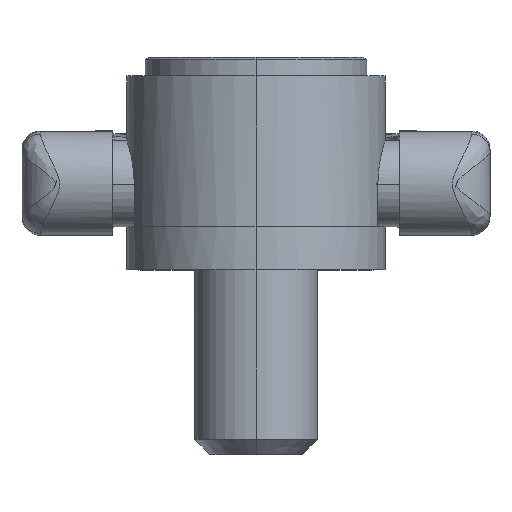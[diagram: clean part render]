
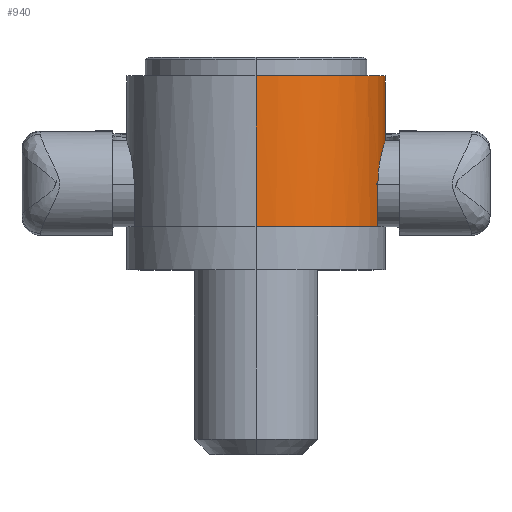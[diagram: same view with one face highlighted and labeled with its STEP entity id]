
A CAD part, top view. The second image highlights one B-rep face of the part: STEP entity #940.
In plain terms, the highlighted cylindrical face has radius 21 mm (diameter 42 mm), a partial arc.
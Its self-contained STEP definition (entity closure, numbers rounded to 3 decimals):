
#853 = ORIENTED_EDGE ( 'NONE', *, *, #854, .F. ) ;
#854 = EDGE_CURVE ( 'NONE', #855, #884, #5337, .T. ) ;
#855 = VERTEX_POINT ( 'NONE', #5332 ) ;
#856 = ORIENTED_EDGE ( 'NONE', *, *, #857, .T. ) ;
#857 = EDGE_CURVE ( 'NONE', #855, #858, #5305, .T. ) ;
#858 = VERTEX_POINT ( 'NONE', #5301 ) ;
#879 = EDGE_CURVE ( 'NONE', #880, #881, #5352, .T. ) ;
#880 = VERTEX_POINT ( 'NONE', #5347 ) ;
#881 = VERTEX_POINT ( 'NONE', #5346 ) ;
#882 = ORIENTED_EDGE ( 'NONE', *, *, #883, .T. ) ;
#883 = EDGE_CURVE ( 'NONE', #880, #884, #5345, .T. ) ;
#884 = VERTEX_POINT ( 'NONE', #5341 ) ;
#940 = ADVANCED_FACE ( 'NONE', ( #5534 ), #5532, .T. ) ;
#941 = EDGE_LOOP ( 'NONE', ( #942, #882, #853, #856, #1038, #1041, #950, #953 ) ) ;
#942 = ORIENTED_EDGE ( 'NONE', *, *, #879, .F. ) ;
#949 = EDGE_CURVE ( 'NONE', #1040, #1042, #5515, .T. ) ;
#950 = ORIENTED_EDGE ( 'NONE', *, *, #951, .F. ) ;
#951 = EDGE_CURVE ( 'NONE', #952, #1042, #5499, .T. ) ;
#952 = VERTEX_POINT ( 'NONE', #5494 ) ;
#953 = ORIENTED_EDGE ( 'NONE', *, *, #954, .F. ) ;
#954 = EDGE_CURVE ( 'NONE', #881, #952, #5493, .T. ) ;
#1038 = ORIENTED_EDGE ( 'NONE', *, *, #1039, .T. ) ;
#1039 = EDGE_CURVE ( 'NONE', #858, #1040, #5821, .T. ) ;
#1040 = VERTEX_POINT ( 'NONE', #5957 ) ;
#1041 = ORIENTED_EDGE ( 'NONE', *, *, #949, .T. ) ;
#1042 = VERTEX_POINT ( 'NONE', #5889 ) ;
#5301 = CARTESIAN_POINT ( 'NONE',  ( 19.799, 14., 7. ) ) ;
#5302 = DIRECTION ( 'NONE',  ( 0., 1., 0. ) ) ;
#5303 = VECTOR ( 'NONE', #5302, 1000. ) ;
#5304 = CARTESIAN_POINT ( 'NONE',  ( 19.799, 34.5, 7. ) ) ;
#5305 = LINE ( 'NONE', #5304, #5303 ) ;
#5332 = CARTESIAN_POINT ( 'NONE',  ( 19.799, 7., 7. ) ) ;
#5333 = DIRECTION ( 'NONE',  ( 0., 0., -1. ) ) ;
#5334 = DIRECTION ( 'NONE',  ( 0., -1., 0. ) ) ;
#5335 = CARTESIAN_POINT ( 'NONE',  ( 0., 7., 0. ) ) ;
#5336 = AXIS2_PLACEMENT_3D ( 'NONE', #5335, #5334, #5333 ) ;
#5337 = CIRCLE ( 'NONE', #5336, 21. ) ;
#5341 = CARTESIAN_POINT ( 'NONE',  ( 0., 7., 21. ) ) ;
#5342 = DIRECTION ( 'NONE',  ( 0., -1., 0. ) ) ;
#5343 = VECTOR ( 'NONE', #5342, 1000. ) ;
#5344 = CARTESIAN_POINT ( 'NONE',  ( 0., 34.5, 21. ) ) ;
#5345 = LINE ( 'NONE', #5344, #5343 ) ;
#5346 = CARTESIAN_POINT ( 'NONE',  ( 0., 31.5, -21. ) ) ;
#5347 = CARTESIAN_POINT ( 'NONE',  ( 0., 31.5, 21. ) ) ;
#5348 = DIRECTION ( 'NONE',  ( 0., 0., 1. ) ) ;
#5349 = DIRECTION ( 'NONE',  ( 0., 1., 0. ) ) ;
#5350 = CARTESIAN_POINT ( 'NONE',  ( 0., 31.5, 0. ) ) ;
#5351 = AXIS2_PLACEMENT_3D ( 'NONE', #5350, #5349, #5348 ) ;
#5352 = CIRCLE ( 'NONE', #5351, 21. ) ;
#5490 = DIRECTION ( 'NONE',  ( 0., -1., 0. ) ) ;
#5491 = VECTOR ( 'NONE', #5490, 1000. ) ;
#5492 = CARTESIAN_POINT ( 'NONE',  ( 0., 34.5, -21. ) ) ;
#5493 = LINE ( 'NONE', #5492, #5491 ) ;
#5494 = CARTESIAN_POINT ( 'NONE',  ( 0., 7., -21. ) ) ;
#5495 = DIRECTION ( 'NONE',  ( 0., 0., -1. ) ) ;
#5496 = DIRECTION ( 'NONE',  ( 0., -1., 0. ) ) ;
#5497 = CARTESIAN_POINT ( 'NONE',  ( 0., 7., 0. ) ) ;
#5498 = AXIS2_PLACEMENT_3D ( 'NONE', #5497, #5496, #5495 ) ;
#5499 = CIRCLE ( 'NONE', #5498, 21. ) ;
#5512 = DIRECTION ( 'NONE',  ( 0., -1., 0. ) ) ;
#5513 = VECTOR ( 'NONE', #5512, 1000. ) ;
#5514 = CARTESIAN_POINT ( 'NONE',  ( 19.799, 34.5, -7. ) ) ;
#5515 = LINE ( 'NONE', #5514, #5513 ) ;
#5528 = DIRECTION ( 'NONE',  ( 0., 0., -1. ) ) ;
#5529 = DIRECTION ( 'NONE',  ( 0., -1., 0. ) ) ;
#5530 = CARTESIAN_POINT ( 'NONE',  ( 0., 34.5, 0. ) ) ;
#5531 = AXIS2_PLACEMENT_3D ( 'NONE', #5530, #5529, #5528 ) ;
#5532 = CYLINDRICAL_SURFACE ( 'NONE', #5531, 21. ) ;
#5534 = FACE_OUTER_BOUND ( 'NONE', #941, .T. ) ;
#5599 = CARTESIAN_POINT ( 'NONE',  ( 19.879, 15.837, -6.77 ) ) ;
#5601 = CARTESIAN_POINT ( 'NONE',  ( 19.925, 16.273, -6.636 ) ) ;
#5602 = CARTESIAN_POINT ( 'NONE',  ( 20.038, 17.115, -6.285 ) ) ;
#5781 = CARTESIAN_POINT ( 'NONE',  ( 20.107, 17.524, -6.065 ) ) ;
#5782 = CARTESIAN_POINT ( 'NONE',  ( 20.253, 18.279, -5.558 ) ) ;
#5783 = CARTESIAN_POINT ( 'NONE',  ( 20.33, 18.629, -5.271 ) ) ;
#5784 = CARTESIAN_POINT ( 'NONE',  ( 20.448, 19.112, -4.787 ) ) ;
#5785 = CARTESIAN_POINT ( 'NONE',  ( 20.487, 19.267, -4.617 ) ) ;
#5786 = CARTESIAN_POINT ( 'NONE',  ( 20.563, 19.556, -4.264 ) ) ;
#5787 = CARTESIAN_POINT ( 'NONE',  ( 20.6, 19.692, -4.081 ) ) ;
#5788 = CARTESIAN_POINT ( 'NONE',  ( 20.707, 20.07, -3.515 ) ) ;
#5789 = CARTESIAN_POINT ( 'NONE',  ( 20.773, 20.288, -3.111 ) ) ;
#5790 = CARTESIAN_POINT ( 'NONE',  ( 20.883, 20.642, -2.259 ) ) ;
#5791 = CARTESIAN_POINT ( 'NONE',  ( 20.926, 20.775, -1.821 ) ) ;
#5792 = CARTESIAN_POINT ( 'NONE',  ( 20.985, 20.954, -0.92 ) ) ;
#5793 = CARTESIAN_POINT ( 'NONE',  ( 21., 21., -0.453 ) ) ;
#5794 = CARTESIAN_POINT ( 'NONE',  ( 21., 21., 0.468 ) ) ;
#5795 = CARTESIAN_POINT ( 'NONE',  ( 20.985, 20.954, 0.924 ) ) ;
#5796 = CARTESIAN_POINT ( 'NONE',  ( 20.94, 20.818, 1.603 ) ) ;
#5797 = CARTESIAN_POINT ( 'NONE',  ( 20.921, 20.761, 1.829 ) ) ;
#5798 = CARTESIAN_POINT ( 'NONE',  ( 20.878, 20.626, 2.269 ) ) ;
#5799 = CARTESIAN_POINT ( 'NONE',  ( 20.854, 20.548, 2.484 ) ) ;
#5800 = CARTESIAN_POINT ( 'NONE',  ( 20.772, 20.286, 3.114 ) ) ;
#5801 = CARTESIAN_POINT ( 'NONE',  ( 20.707, 20.07, 3.516 ) ) ;
#5802 = CARTESIAN_POINT ( 'NONE',  ( 20.563, 19.558, 4.28 ) ) ;
#5803 = CARTESIAN_POINT ( 'NONE',  ( 20.486, 19.269, 4.63 ) ) ;
#5804 = CARTESIAN_POINT ( 'NONE',  ( 20.369, 18.789, 5.11 ) ) ;
#5805 = CARTESIAN_POINT ( 'NONE',  ( 20.33, 18.621, 5.263 ) ) ;
#5806 = CARTESIAN_POINT ( 'NONE',  ( 20.253, 18.268, 5.553 ) ) ;
#5807 = CARTESIAN_POINT ( 'NONE',  ( 20.215, 18.083, 5.69 ) ) ;
#5808 = CARTESIAN_POINT ( 'NONE',  ( 20.105, 17.515, 6.071 ) ) ;
#5809 = CARTESIAN_POINT ( 'NONE',  ( 20.038, 17.114, 6.286 ) ) ;
#5810 = CARTESIAN_POINT ( 'NONE',  ( 19.953, 16.48, 6.55 ) ) ;
#5811 = CARTESIAN_POINT ( 'NONE',  ( 19.927, 16.261, 6.629 ) ) ;
#5814 = CARTESIAN_POINT ( 'NONE',  ( 19.881, 15.82, 6.763 ) ) ;
#5815 = CARTESIAN_POINT ( 'NONE',  ( 19.862, 15.598, 6.819 ) ) ;
#5816 = CARTESIAN_POINT ( 'NONE',  ( 19.815, 14.923, 6.954 ) ) ;
#5817 = CARTESIAN_POINT ( 'NONE',  ( 19.799, 14.466, 7. ) ) ;
#5818 = CARTESIAN_POINT ( 'NONE',  ( 19.799, 14., 7. ) ) ;
#5821 = B_SPLINE_CURVE_WITH_KNOTS ( 'NONE', 3,
 ( #5818, #5817, #5816, #5815, #5814, #5811, #5810, #5809, #5808, #5807, #5806, #5805, #5804, #5803, #5802, #5801, #5800, #5799, #5798, #5797, #5796, #5795, #5794, #5793, #5792, #5791, #5790, #5789, #5788, #5787, #5786, #5785, #5784, #5783, #5782, #5781, #5602, #5601, #5599, #5963, #5962, #5947, #5854, #5885 ),
 .UNSPECIFIED., .F., .F.,
 ( 4, 2, 2, 2, 2, 2, 2, 2, 2, 2, 2, 2, 2, 2, 2, 2, 2, 2, 2, 2, 2, 4 ),
 ( 0., 0.001, 0.002, 0.003, 0.004, 0.005, 0.006, 0.007, 0.008, 0.009, 0.01, 0.011, 0.012, 0.014, 0.015, 0.016, 0.017, 0.018, 0.019, 0.021, 0.021, 0.022 ),
 .UNSPECIFIED. ) ;
#5854 = CARTESIAN_POINT ( 'NONE',  ( 19.799, 14.233, -7. ) ) ;
#5885 = CARTESIAN_POINT ( 'NONE',  ( 19.799, 14., -7. ) ) ;
#5889 = CARTESIAN_POINT ( 'NONE',  ( 19.799, 7., -7. ) ) ;
#5947 = CARTESIAN_POINT ( 'NONE',  ( 19.803, 14.465, -6.988 ) ) ;
#5957 = CARTESIAN_POINT ( 'NONE',  ( 19.799, 14., -7. ) ) ;
#5962 = CARTESIAN_POINT ( 'NONE',  ( 19.819, 14.927, -6.942 ) ) ;
#5963 = CARTESIAN_POINT ( 'NONE',  ( 19.832, 15.158, -6.907 ) ) ;
